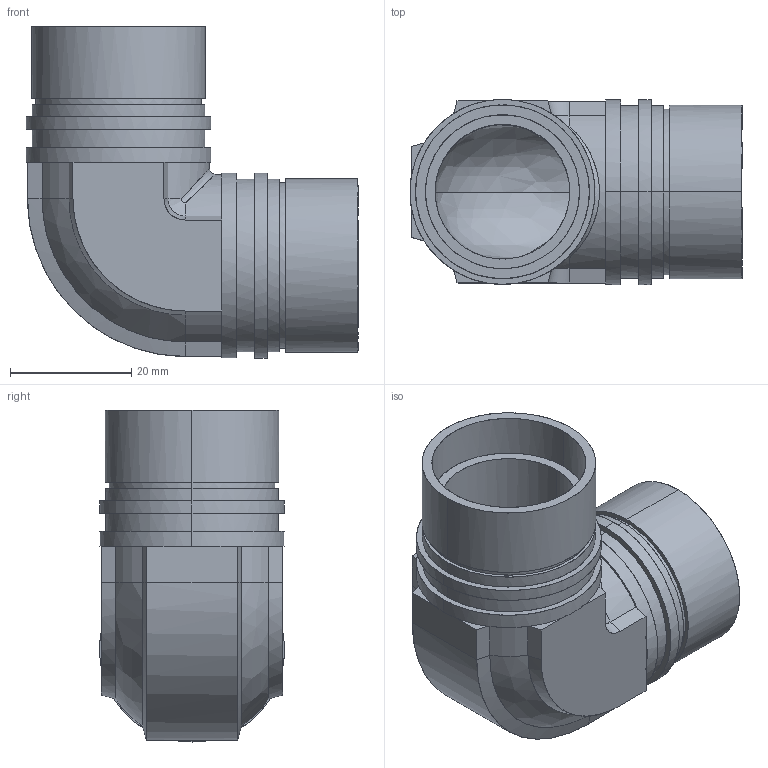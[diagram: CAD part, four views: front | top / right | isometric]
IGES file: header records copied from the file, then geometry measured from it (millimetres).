
Start section: Comment
Global section: file name: 70-25.4UE-P.igs; native system:  By Spatial Corp.; preprocessor: XPlus GENERIC/IGES 3.0; author: Author; organization: Title; date: 20100222.170520; units: inch
Bounding box: 54.75 x 30.5 x 54.75 mm (x, y, z)
Surface area: 13817.8 mm2 (no closed solid volume)
Topology: 0 solids, 0 shells, 107 faces, 474 edges, 472 vertices
Faces by surface type: bspline 107
